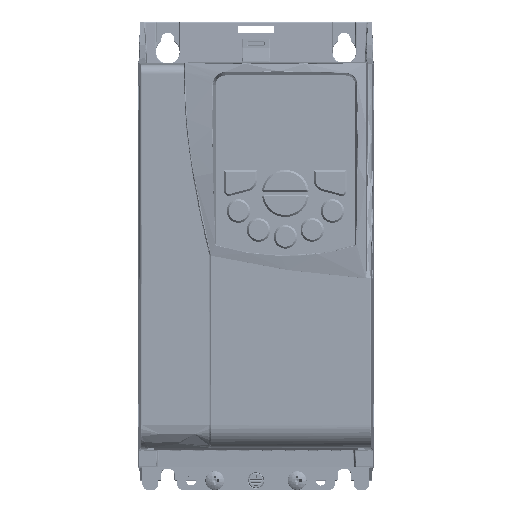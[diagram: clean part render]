
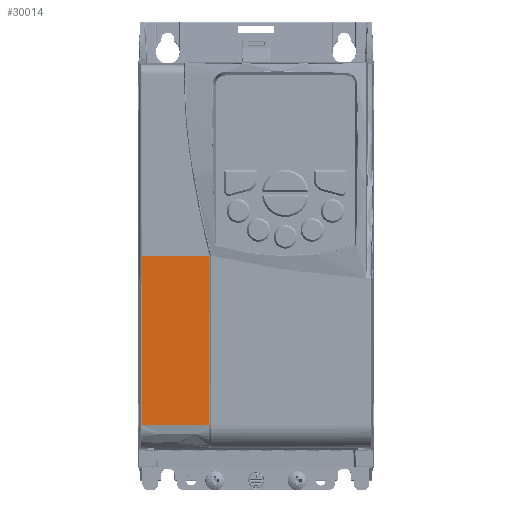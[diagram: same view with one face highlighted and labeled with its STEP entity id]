
A CAD part, top view. The second image highlights one B-rep face of the part: STEP entity #30014.
In plain terms, the highlighted planar face has unit normal (0, 0, 1).
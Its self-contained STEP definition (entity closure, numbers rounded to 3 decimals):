
#11109 = CARTESIAN_POINT ( 'NONE',  ( -19.503, -7., 60. ) ) ;
#26490 = EDGE_CURVE ( 'NONE', #42590, #223639, #79401, .T. ) ;
#28208 = ORIENTED_EDGE ( 'NONE', *, *, #163992, .T. ) ;
#30014 = ADVANCED_FACE ( 'NONE', ( #40218 ), #355749, .F. ) ;
#40218 = FACE_OUTER_BOUND ( 'NONE', #412678, .T. ) ;
#42590 = VERTEX_POINT ( 'NONE', #280612 ) ;
#47526 = CARTESIAN_POINT ( 'NONE',  ( -19.798, -7., 60. ) ) ;
#54715 = DIRECTION ( 'NONE',  ( 0., 1., 0. ) ) ;
#79401 = LINE ( 'NONE', #47526, #194582 ) ;
#88970 = EDGE_CURVE ( 'NONE', #223639, #244650, #472169, .T. ) ;
#104375 = VERTEX_POINT ( 'NONE', #463753 ) ;
#125759 = AXIS2_PLACEMENT_3D ( 'NONE', #11109, #314043, #54715 ) ;
#145563 = DIRECTION ( 'NONE',  ( 0., -1., 0. ) ) ;
#146239 = CARTESIAN_POINT ( 'NONE',  ( -19.503, -7.047, 60. ) ) ;
#158561 = ORIENTED_EDGE ( 'NONE', *, *, #88970, .T. ) ;
#163992 = EDGE_CURVE ( 'NONE', #244650, #104375, #421260, .T. ) ;
#179983 = LINE ( 'NONE', #414158, #281358 ) ;
#194582 = VECTOR ( 'NONE', #524953, 1000. ) ;
#223639 = VERTEX_POINT ( 'NONE', #350227 ) ;
#225101 = ORIENTED_EDGE ( 'NONE', *, *, #26490, .T. ) ;
#225571 = DIRECTION ( 'NONE',  ( -1., 0., 0. ) ) ;
#227844 = VECTOR ( 'NONE', #225571, 1000. ) ;
#244650 = VERTEX_POINT ( 'NONE', #531875 ) ;
#280612 = CARTESIAN_POINT ( 'NONE',  ( -19.798, -79.072, 60. ) ) ;
#281358 = VECTOR ( 'NONE', #506983, 1000. ) ;
#305854 = VECTOR ( 'NONE', #145563, 1000. ) ;
#314043 = DIRECTION ( 'NONE',  ( 0., 0., -1. ) ) ;
#329475 = ORIENTED_EDGE ( 'NONE', *, *, #471799, .F. ) ;
#350227 = CARTESIAN_POINT ( 'NONE',  ( -19.798, -7.047, 60. ) ) ;
#355749 = PLANE ( 'NONE',  #125759 ) ;
#404982 = CARTESIAN_POINT ( 'NONE',  ( -48.658, -7., 60. ) ) ;
#412678 = EDGE_LOOP ( 'NONE', ( #329475, #225101, #158561, #28208 ) ) ;
#414158 = CARTESIAN_POINT ( 'NONE',  ( -19.503, -79.072, 60. ) ) ;
#421260 = LINE ( 'NONE', #404982, #305854 ) ;
#463753 = CARTESIAN_POINT ( 'NONE',  ( -48.658, -79.072, 60. ) ) ;
#471799 = EDGE_CURVE ( 'NONE', #42590, #104375, #179983, .T. ) ;
#472169 = LINE ( 'NONE', #146239, #227844 ) ;
#506983 = DIRECTION ( 'NONE',  ( -1., 0., 0. ) ) ;
#524953 = DIRECTION ( 'NONE',  ( 0., 1., 0. ) ) ;
#531875 = CARTESIAN_POINT ( 'NONE',  ( -48.658, -7.047, 60. ) ) ;
